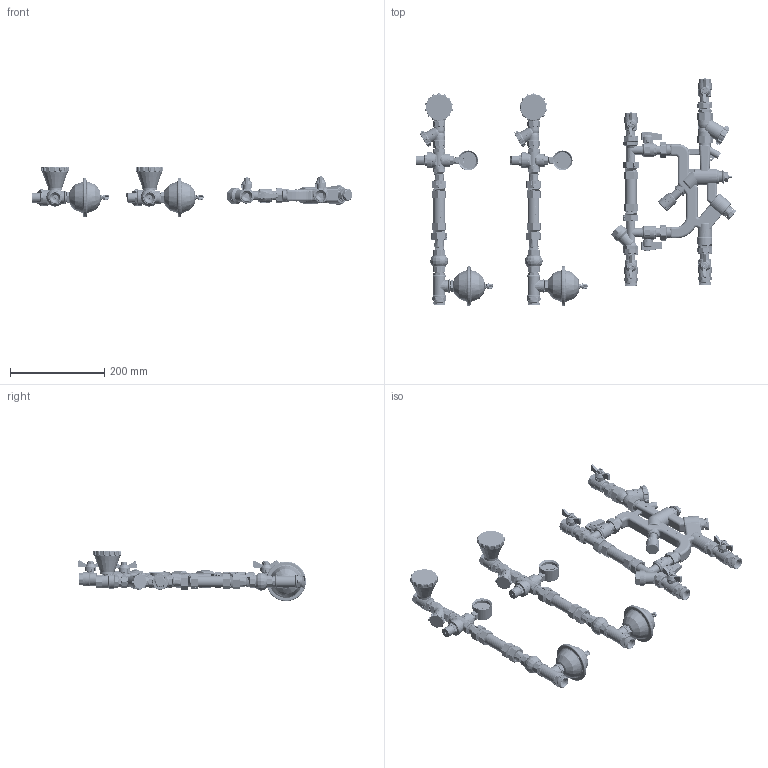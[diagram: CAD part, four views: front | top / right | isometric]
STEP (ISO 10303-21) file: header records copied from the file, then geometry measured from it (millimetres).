
FILE_DESCRIPTION(/* description */ (''),/* implementation_level */ '2;1');
FILE_NAME(/* name */ 'F:\Артём\00000\Работа удаленка\Квартирные станции с вертикальным размещением отопительного модуля\VT.NM.VP.00.0.0.stp',/* time_stamp */ '2021-03-09T10:12:25+03:00',/* author */ ('almis'),/* organization */ (''),/* preprocessor_version */ 'ST-DEVELOPER v18',/* originating_system */ 'Autodesk Inventor 2020',/* authorisation */ '');
FILE_SCHEMA (('AUTOMOTIVE_DESIGN { 1 0 10303 214 3 1 1 }'));
Length unit declared in the file: inch
Products named in the file (16): VT.NM.VF.00.0.0; VTr.611.N.0004; VT.088.N.0455RM; VT.193.N.04; VT.214_ВВ_1%2; VT.151.N.04; VTr.582.N.0004; Труба_025; VT.CAR19.I; VT.CM.EQM2.K_01; VT.193.N.05; VT.241.N.0405; VT.241.N.0405_02; VTr.582.N.0005; VTr.580.NE.040E; VTp.789.110.05
Assembly tree (40 placements, depth 2):
  VT.NM.VF.00.0.0
    VTr.611.N.0004  x4
    VTr.582.N.0004  x6
    VT.088.N.0455RM  x2
    VT.193.N.04  x2
    VT.214_ВВ_1%2  x2
    VT.151.N.04  x2
    Труба_025  x2
    VT.CAR19.I  x2
    VTr.580.NE.040E  x4
    VT.CM.EQM2.K_01
    VT.241.N.0405  x4
    VT.241.N.0405_02  x4
    VT.193.N.05
    VTr.582.N.0005
    VTp.789.110.05  x3
Bounding box: 677.47 x 482.18 x 106.55 mm (x, y, z)
Volume: 1121353.2 mm3; surface area: 768083.8 mm2
Topology: 61 solids, 81 shells, 21283 faces, 56452 edges, 36241 vertices
Faces by surface type: plane 7582, bspline 6035, cylinder 5389, torus 1011, cone 961, sphere 305
Full cylindrical faces by diameter (mm): 0.5 x4, 1 x6, 1.1 x4, 1.15 x2, 1.48 x4, 1.49 x4, 1.5 x23, 1.7 x4, 2 x21, 2.05 x2, 2.5 x21, 2.7 x4, 3 x17, 3.2 x1, 3.3 x2, 3.5 x2, 4 x15, 4.5 x46, 4.9 x2, 5 x12, 5.5 x48, 5.8 x2, 6 x2, 6.5 x73, 6.534 x4, 6.6 x4, 7.5 x36, 7.6 x22, 8 x16, 8.3 x4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
Entity records: 565033 total; most frequent: CARTESIAN_POINT 300977, ORIENTED_EDGE 60910, DIRECTION 45746, EDGE_CURVE 30455, VERTEX_POINT 19581, AXIS2_PLACEMENT_3D 16706, EDGE_LOOP 12395, LINE 12334
